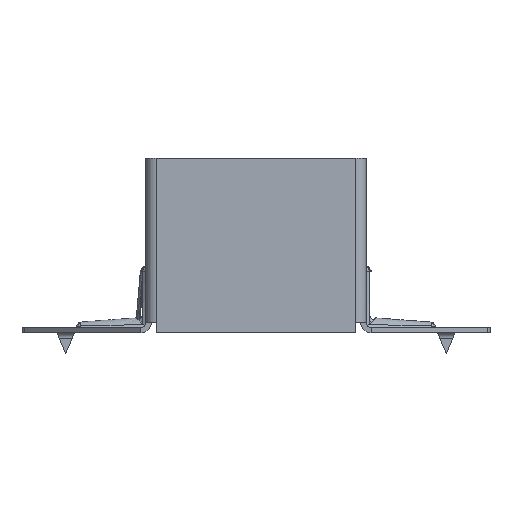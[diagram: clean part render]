
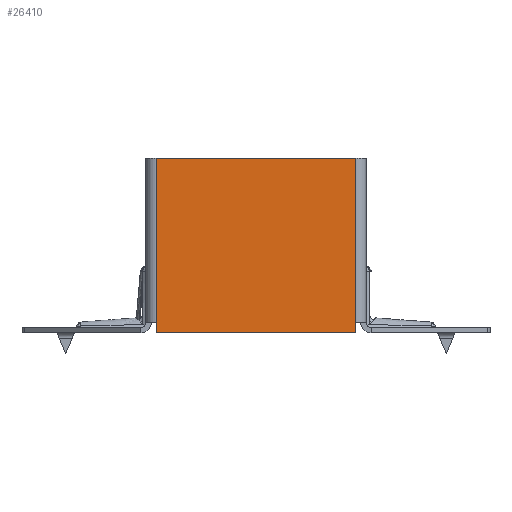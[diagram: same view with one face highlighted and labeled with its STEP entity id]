
A CAD part, front view. The second image highlights one B-rep face of the part: STEP entity #26410.
In plain terms, the highlighted planar face has unit normal (0, -1, 0).
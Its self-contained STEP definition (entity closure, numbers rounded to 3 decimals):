
#245 = DIRECTION ( 'NONE',  ( 0., 0., 1. ) ) ;
#1191 = VECTOR ( 'NONE', #17315, 1000. ) ;
#1322 = VERTEX_POINT ( 'NONE', #6273 ) ;
#1844 = CARTESIAN_POINT ( 'NONE',  ( -28.5, -50.75, -29. ) ) ;
#3048 = LINE ( 'NONE', #4423, #26021 ) ;
#3214 = VERTEX_POINT ( 'NONE', #10249 ) ;
#4270 = DIRECTION ( 'NONE',  ( 0., 0., -1. ) ) ;
#4423 = CARTESIAN_POINT ( 'NONE',  ( -28.5, -50.75, 3. ) ) ;
#4521 = DIRECTION ( 'NONE',  ( 0., 0., 1. ) ) ;
#4690 = DIRECTION ( 'NONE',  ( 1., 0., 0. ) ) ;
#4826 = CARTESIAN_POINT ( 'NONE',  ( 28.5, -50.75, -29. ) ) ;
#5005 = CARTESIAN_POINT ( 'NONE',  ( 28.5, -50.75, -32. ) ) ;
#5371 = VECTOR ( 'NONE', #4690, 1000. ) ;
#6094 = CARTESIAN_POINT ( 'NONE',  ( -30.75, -50.75, -32. ) ) ;
#6273 = CARTESIAN_POINT ( 'NONE',  ( 28.5, -50.75, -29. ) ) ;
#8357 = DIRECTION ( 'NONE',  ( -1., 0., 0. ) ) ;
#9060 = CARTESIAN_POINT ( 'NONE',  ( -67., -50.75, 18. ) ) ;
#9126 = VERTEX_POINT ( 'NONE', #5005 ) ;
#9629 = VERTEX_POINT ( 'NONE', #22600 ) ;
#9735 = VERTEX_POINT ( 'NONE', #15491 ) ;
#10207 = VECTOR ( 'NONE', #4270, 1000. ) ;
#10249 = CARTESIAN_POINT ( 'NONE',  ( -28.5, -50.75, -32. ) ) ;
#10258 = LINE ( 'NONE', #9060, #5371 ) ;
#12621 = ORIENTED_EDGE ( 'NONE', *, *, #19983, .F. ) ;
#13040 = LINE ( 'NONE', #4826, #27260 ) ;
#14084 = VECTOR ( 'NONE', #8357, 1000. ) ;
#14405 = EDGE_CURVE ( 'NONE', #9735, #9629, #3048, .T. ) ;
#15036 = ORIENTED_EDGE ( 'NONE', *, *, #19771, .T. ) ;
#15042 = CARTESIAN_POINT ( 'NONE',  ( 28.5, -50.75, 18. ) ) ;
#15491 = CARTESIAN_POINT ( 'NONE',  ( -28.5, -50.75, -29. ) ) ;
#16672 = ORIENTED_EDGE ( 'NONE', *, *, #20172, .T. ) ;
#17315 = DIRECTION ( 'NONE',  ( 0., 0., -1. ) ) ;
#17404 = ORIENTED_EDGE ( 'NONE', *, *, #19793, .F. ) ;
#17609 = CARTESIAN_POINT ( 'NONE',  ( 28.5, -50.75, 3. ) ) ;
#17729 = EDGE_LOOP ( 'NONE', ( #12621, #19142, #22248, #15036, #17404, #16672 ) ) ;
#18467 = FACE_OUTER_BOUND ( 'NONE', #17729, .T. ) ;
#18686 = AXIS2_PLACEMENT_3D ( 'NONE', #27539, #27347, #27445 ) ;
#18747 = EDGE_CURVE ( 'NONE', #9629, #28163, #10258, .T. ) ;
#19142 = ORIENTED_EDGE ( 'NONE', *, *, #18747, .F. ) ;
#19771 = EDGE_CURVE ( 'NONE', #9735, #3214, #24886, .T. ) ;
#19793 = EDGE_CURVE ( 'NONE', #9126, #3214, #20691, .T. ) ;
#19983 = EDGE_CURVE ( 'NONE', #28163, #1322, #26260, .T. ) ;
#20172 = EDGE_CURVE ( 'NONE', #9126, #1322, #13040, .T. ) ;
#20691 = LINE ( 'NONE', #6094, #14084 ) ;
#22248 = ORIENTED_EDGE ( 'NONE', *, *, #14405, .F. ) ;
#22600 = CARTESIAN_POINT ( 'NONE',  ( -28.5, -50.75, 18. ) ) ;
#23284 = PLANE ( 'NONE',  #18686 ) ;
#24886 = LINE ( 'NONE', #1844, #1191 ) ;
#26021 = VECTOR ( 'NONE', #4521, 1000. ) ;
#26260 = LINE ( 'NONE', #17609, #10207 ) ;
#26410 = ADVANCED_FACE ( 'NONE', ( #18467 ), #23284, .F. ) ;
#27260 = VECTOR ( 'NONE', #245, 1000. ) ;
#27347 = DIRECTION ( 'NONE',  ( 0., 1., 0. ) ) ;
#27445 = DIRECTION ( 'NONE',  ( 1., 0., 0. ) ) ;
#27539 = CARTESIAN_POINT ( 'NONE',  ( -15., -50.75, 3. ) ) ;
#28163 = VERTEX_POINT ( 'NONE', #15042 ) ;
